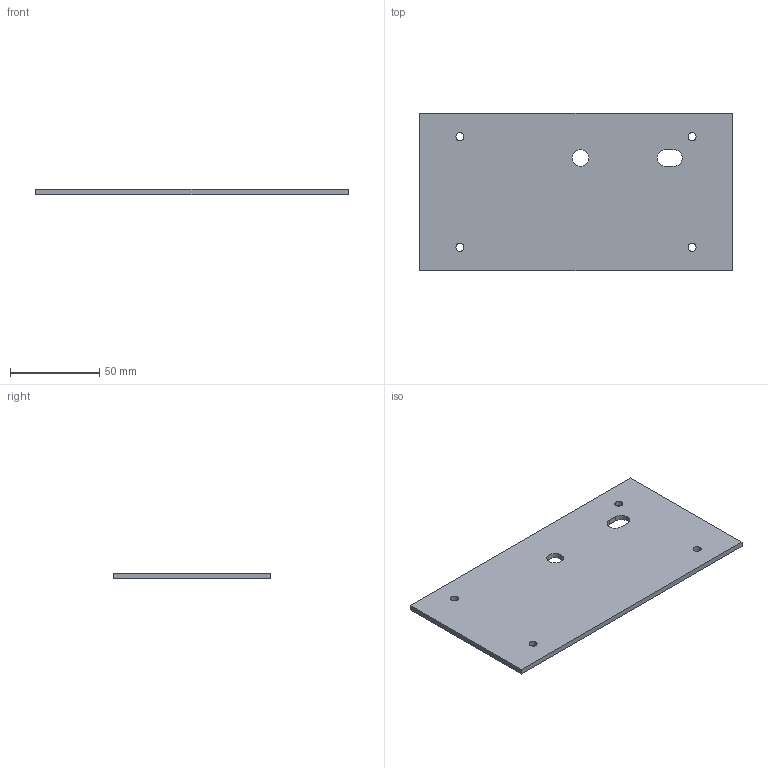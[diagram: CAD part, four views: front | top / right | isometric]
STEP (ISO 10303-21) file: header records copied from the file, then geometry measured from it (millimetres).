
FILE_DESCRIPTION(('FreeCAD Model'),'2;1');
FILE_NAME('Open CASCADE Shape Model','2026-09-11T14:18:25',( '' ),( '' ),'Open CASCADE STEP processor 7.8','FreeCAD','Unknown');
FILE_SCHEMA(('AUTOMOTIVE_DESIGN { 1 0 10303 214 1 1 1 1 }'));
Length unit declared in the file: millimetre
Products named in the file (1): Open CASCADE STEP translator 7.8 11
Bounding box: 175 x 88 x 3 mm (x, y, z)
Volume: 45477.8 mm3; surface area: 32268.4 mm2
Topology: 1 solids, 1 shells, 15 faces, 39 edges, 26 vertices
Faces by surface type: plane 8, cylinder 7
Full cylindrical faces by diameter (mm): 4.5 x4, 9.2 x1
Entity records: 501 total; most frequent: DIRECTION 85, CARTESIAN_POINT 81, ORIENTED_EDGE 78, EDGE_CURVE 39, AXIS2_PLACEMENT_3D 30, FACE_BOUND 27, EDGE_LOOP 27, VERTEX_POINT 26
